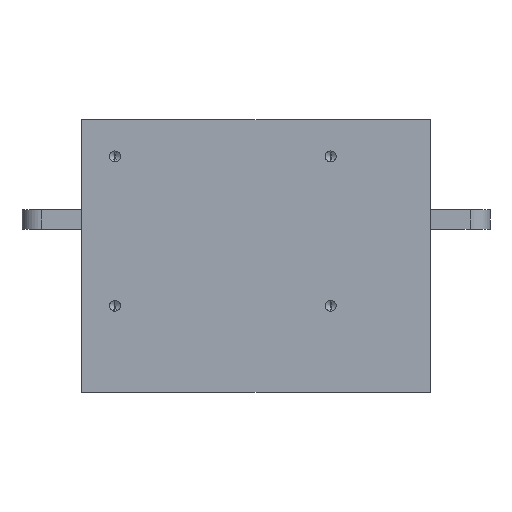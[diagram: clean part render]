
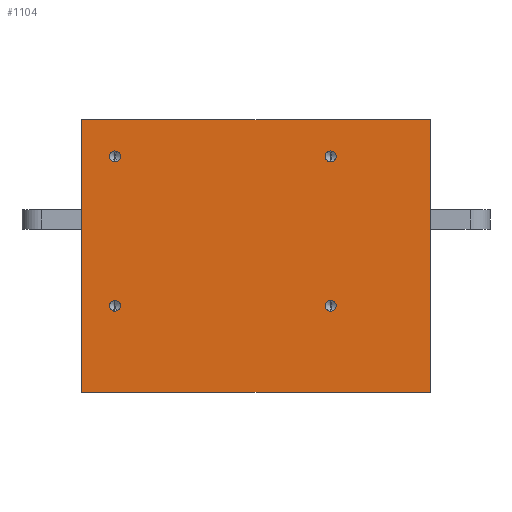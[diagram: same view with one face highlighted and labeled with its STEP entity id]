
A CAD part, front view. The second image highlights one B-rep face of the part: STEP entity #1104.
In plain terms, the highlighted planar face has unit normal (0, -1, 0).
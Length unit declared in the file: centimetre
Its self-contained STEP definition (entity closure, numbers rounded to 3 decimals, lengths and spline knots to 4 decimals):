
#17 = CARTESIAN_POINT ( 'NONE',  ( 2.25, 0., 3.165 ) ) ;
#56 = AXIS2_PLACEMENT_3D ( 'NONE', #922, #1486, #908 ) ;
#58 = FACE_BOUND ( 'NONE', #1378, .T. ) ;
#79 = AXIS2_PLACEMENT_3D ( 'NONE', #732, #1285, #1725 ) ;
#82 = CIRCLE ( 'NONE', #1413, 0.165 ) ;
#125 = VERTEX_POINT ( 'NONE', #1531 ) ;
#130 = EDGE_CURVE ( 'NONE', #1823, #870, #1362, .T. ) ;
#159 = CARTESIAN_POINT ( 'NONE',  ( 2.25, 0., 2.835 ) ) ;
#162 = CARTESIAN_POINT ( 'NONE',  ( -5.25, 0., 4.1 ) ) ;
#176 = DIRECTION ( 'NONE',  ( 0., -1., 0. ) ) ;
#181 = LINE ( 'NONE', #594, #1393 ) ;
#185 = EDGE_CURVE ( 'NONE', #839, #588, #514, .T. ) ;
#196 = EDGE_LOOP ( 'NONE', ( #1391, #1146 ) ) ;
#208 = FACE_OUTER_BOUND ( 'NONE', #1713, .T. ) ;
#209 = CARTESIAN_POINT ( 'NONE',  ( -4.25, 0., -1.665 ) ) ;
#244 = ORIENTED_EDGE ( 'NONE', *, *, #1476, .F. ) ;
#265 = CARTESIAN_POINT ( 'NONE',  ( -4.25, 0., 3.165 ) ) ;
#266 = CARTESIAN_POINT ( 'NONE',  ( -5.25, 0., -4.1 ) ) ;
#286 = CARTESIAN_POINT ( 'NONE',  ( -4.25, 0., -1.5 ) ) ;
#314 = DIRECTION ( 'NONE',  ( 0., 0., -1. ) ) ;
#339 = DIRECTION ( 'NONE',  ( 0., -1., 0. ) ) ;
#355 = DIRECTION ( 'NONE',  ( 0., 0., -1. ) ) ;
#357 = PLANE ( 'NONE',  #56 ) ;
#365 = EDGE_CURVE ( 'NONE', #844, #1823, #181, .T. ) ;
#431 = ORIENTED_EDGE ( 'NONE', *, *, #1416, .F. ) ;
#438 = EDGE_CURVE ( 'NONE', #1328, #125, #82, .T. ) ;
#453 = CARTESIAN_POINT ( 'NONE',  ( 2.25, 0., 3. ) ) ;
#503 = EDGE_CURVE ( 'NONE', #1631, #1704, #1831, .T. ) ;
#514 = CIRCLE ( 'NONE', #1340, 0.165 ) ;
#515 = LINE ( 'NONE', #1064, #869 ) ;
#516 = CARTESIAN_POINT ( 'NONE',  ( 5.25, 0., 4.1 ) ) ;
#518 = DIRECTION ( 'NONE',  ( 0., 0., -1. ) ) ;
#546 = CIRCLE ( 'NONE', #1585, 0.165 ) ;
#557 = CARTESIAN_POINT ( 'NONE',  ( -5.25, 0., -4.1 ) ) ;
#558 = DIRECTION ( 'NONE',  ( 0., -1., 0. ) ) ;
#560 = CIRCLE ( 'NONE', #738, 0.165 ) ;
#568 = ORIENTED_EDGE ( 'NONE', *, *, #130, .F. ) ;
#588 = VERTEX_POINT ( 'NONE', #1102 ) ;
#594 = CARTESIAN_POINT ( 'NONE',  ( 5.25, 0., 4.1 ) ) ;
#595 = LINE ( 'NONE', #162, #715 ) ;
#710 = ORIENTED_EDGE ( 'NONE', *, *, #1082, .F. ) ;
#715 = VECTOR ( 'NONE', #875, 100. ) ;
#732 = CARTESIAN_POINT ( 'NONE',  ( -4.25, 0., 3. ) ) ;
#738 = AXIS2_PLACEMENT_3D ( 'NONE', #1593, #339, #1419 ) ;
#775 = DIRECTION ( 'NONE',  ( 0., -1., 0. ) ) ;
#839 = VERTEX_POINT ( 'NONE', #209 ) ;
#844 = VERTEX_POINT ( 'NONE', #516 ) ;
#848 = DIRECTION ( 'NONE',  ( 0., 0., -1. ) ) ;
#869 = VECTOR ( 'NONE', #1612, 100. ) ;
#870 = VERTEX_POINT ( 'NONE', #557 ) ;
#875 = DIRECTION ( 'NONE',  ( 1., 0., 0. ) ) ;
#883 = AXIS2_PLACEMENT_3D ( 'NONE', #1424, #1714, #997 ) ;
#908 = DIRECTION ( 'NONE',  ( 0., 0., -1. ) ) ;
#921 = ORIENTED_EDGE ( 'NONE', *, *, #973, .F. ) ;
#922 = CARTESIAN_POINT ( 'NONE',  ( 0., 0., 0. ) ) ;
#973 = EDGE_CURVE ( 'NONE', #1817, #1820, #546, .T. ) ;
#997 = DIRECTION ( 'NONE',  ( 0., 0., -1. ) ) ;
#1025 = EDGE_CURVE ( 'NONE', #588, #839, #1661, .T. ) ;
#1031 = AXIS2_PLACEMENT_3D ( 'NONE', #1173, #1512, #518 ) ;
#1038 = CARTESIAN_POINT ( 'NONE',  ( -4.25, 0., 2.835 ) ) ;
#1064 = CARTESIAN_POINT ( 'NONE',  ( -5.25, 0., 4.1 ) ) ;
#1082 = EDGE_CURVE ( 'NONE', #870, #1153, #515, .T. ) ;
#1102 = CARTESIAN_POINT ( 'NONE',  ( -4.25, 0., -1.335 ) ) ;
#1104 = ADVANCED_FACE ( 'NONE', ( #1778, #1190, #1746, #58, #208 ), #357, .T. ) ;
#1146 = ORIENTED_EDGE ( 'NONE', *, *, #1025, .F. ) ;
#1153 = VERTEX_POINT ( 'NONE', #1208 ) ;
#1173 = CARTESIAN_POINT ( 'NONE',  ( -4.25, 0., 3. ) ) ;
#1179 = EDGE_CURVE ( 'NONE', #125, #1328, #1420, .T. ) ;
#1190 = FACE_BOUND ( 'NONE', #1207, .T. ) ;
#1207 = EDGE_LOOP ( 'NONE', ( #1398, #1660 ) ) ;
#1208 = CARTESIAN_POINT ( 'NONE',  ( -5.25, 0., 4.1 ) ) ;
#1266 = ORIENTED_EDGE ( 'NONE', *, *, #1485, .F. ) ;
#1285 = DIRECTION ( 'NONE',  ( 0., -1., 0. ) ) ;
#1288 = ORIENTED_EDGE ( 'NONE', *, *, #503, .F. ) ;
#1303 = ORIENTED_EDGE ( 'NONE', *, *, #365, .F. ) ;
#1313 = DIRECTION ( 'NONE',  ( 0., 0., -1. ) ) ;
#1328 = VERTEX_POINT ( 'NONE', #1431 ) ;
#1340 = AXIS2_PLACEMENT_3D ( 'NONE', #286, #558, #848 ) ;
#1362 = LINE ( 'NONE', #266, #1432 ) ;
#1378 = EDGE_LOOP ( 'NONE', ( #1288, #244 ) ) ;
#1391 = ORIENTED_EDGE ( 'NONE', *, *, #185, .F. ) ;
#1393 = VECTOR ( 'NONE', #1313, 100. ) ;
#1398 = ORIENTED_EDGE ( 'NONE', *, *, #1179, .F. ) ;
#1413 = AXIS2_PLACEMENT_3D ( 'NONE', #1493, #775, #355 ) ;
#1416 = EDGE_CURVE ( 'NONE', #1153, #844, #595, .T. ) ;
#1419 = DIRECTION ( 'NONE',  ( 0., 0., -1. ) ) ;
#1420 = CIRCLE ( 'NONE', #1734, 0.165 ) ;
#1424 = CARTESIAN_POINT ( 'NONE',  ( -4.25, 0., -1.5 ) ) ;
#1431 = CARTESIAN_POINT ( 'NONE',  ( 2.25, 0., -1.335 ) ) ;
#1432 = VECTOR ( 'NONE', #1814, 100. ) ;
#1476 = EDGE_CURVE ( 'NONE', #1704, #1631, #1760, .T. ) ;
#1485 = EDGE_CURVE ( 'NONE', #1820, #1817, #560, .T. ) ;
#1486 = DIRECTION ( 'NONE',  ( 0., -1., 0. ) ) ;
#1493 = CARTESIAN_POINT ( 'NONE',  ( 2.25, 0., -1.5 ) ) ;
#1497 = DIRECTION ( 'NONE',  ( 0., 0., -1. ) ) ;
#1504 = CARTESIAN_POINT ( 'NONE',  ( 2.25, 0., -1.5 ) ) ;
#1512 = DIRECTION ( 'NONE',  ( 0., -1., 0. ) ) ;
#1531 = CARTESIAN_POINT ( 'NONE',  ( 2.25, 0., -1.665 ) ) ;
#1585 = AXIS2_PLACEMENT_3D ( 'NONE', #453, #176, #314 ) ;
#1593 = CARTESIAN_POINT ( 'NONE',  ( 2.25, 0., 3. ) ) ;
#1612 = DIRECTION ( 'NONE',  ( 0., 0., 1. ) ) ;
#1631 = VERTEX_POINT ( 'NONE', #1038 ) ;
#1660 = ORIENTED_EDGE ( 'NONE', *, *, #438, .F. ) ;
#1661 = CIRCLE ( 'NONE', #883, 0.165 ) ;
#1704 = VERTEX_POINT ( 'NONE', #265 ) ;
#1713 = EDGE_LOOP ( 'NONE', ( #1303, #431, #710, #568 ) ) ;
#1714 = DIRECTION ( 'NONE',  ( 0., -1., 0. ) ) ;
#1725 = DIRECTION ( 'NONE',  ( 0., 0., -1. ) ) ;
#1734 = AXIS2_PLACEMENT_3D ( 'NONE', #1504, #1736, #1497 ) ;
#1736 = DIRECTION ( 'NONE',  ( 0., -1., 0. ) ) ;
#1746 = FACE_BOUND ( 'NONE', #196, .T. ) ;
#1760 = CIRCLE ( 'NONE', #79, 0.165 ) ;
#1778 = FACE_BOUND ( 'NONE', #1832, .T. ) ;
#1814 = DIRECTION ( 'NONE',  ( -1., 0., 0. ) ) ;
#1817 = VERTEX_POINT ( 'NONE', #17 ) ;
#1820 = VERTEX_POINT ( 'NONE', #159 ) ;
#1823 = VERTEX_POINT ( 'NONE', #1835 ) ;
#1831 = CIRCLE ( 'NONE', #1031, 0.165 ) ;
#1832 = EDGE_LOOP ( 'NONE', ( #1266, #921 ) ) ;
#1835 = CARTESIAN_POINT ( 'NONE',  ( 5.25, 0., -4.1 ) ) ;
